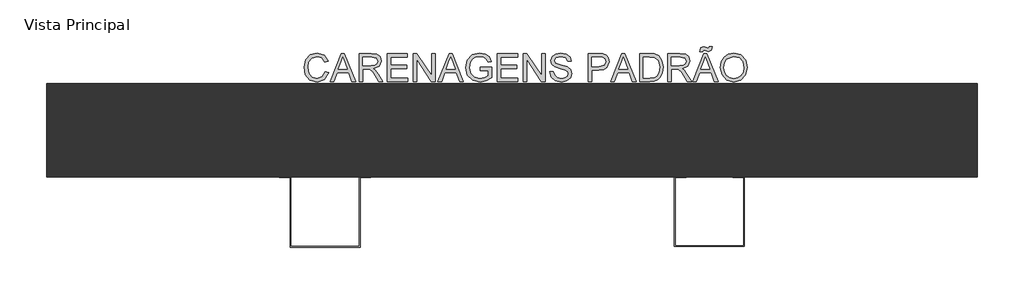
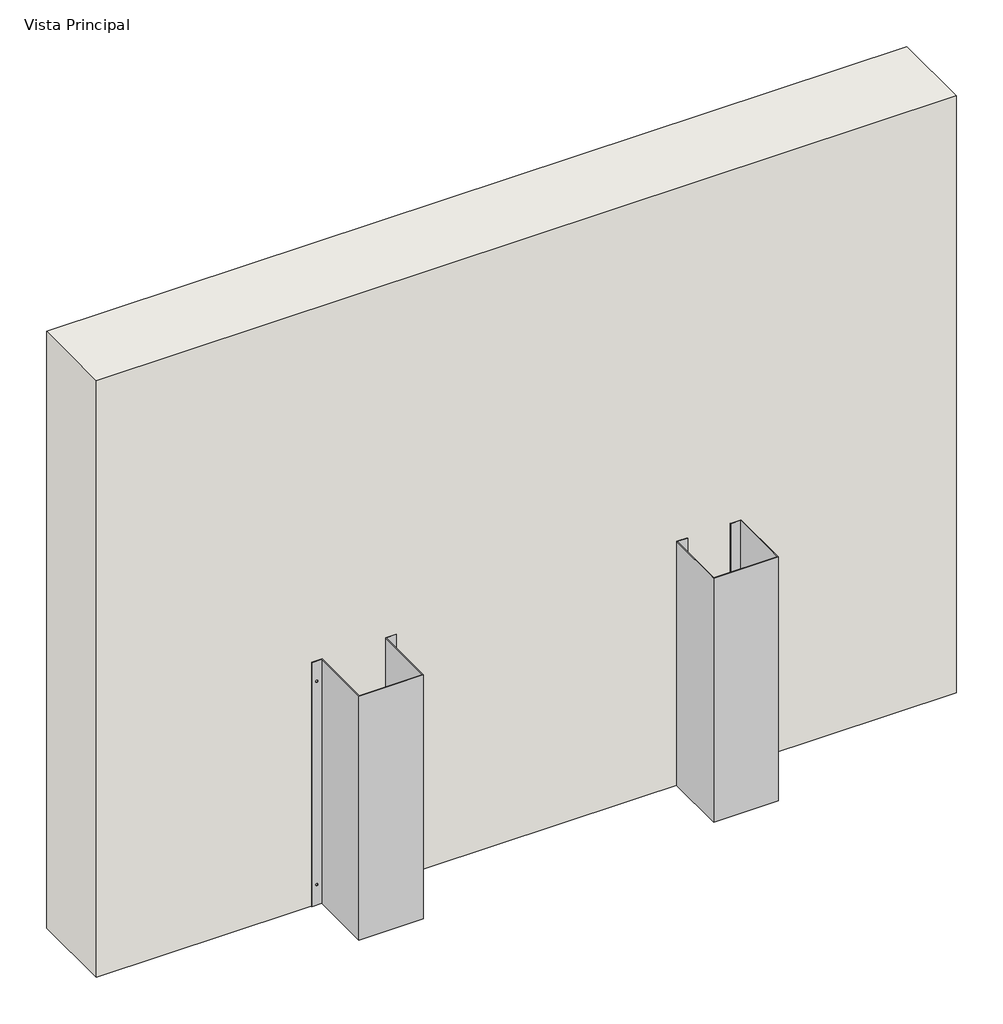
# One storey: 2 flow terminals, 1 proxy, 1 wall.
"""IFC4 building model written with IfcOpenShell, lengths in millimetres."""

from ifc_helpers import new_model, si_unit, origin, origin_with_axes, place, context, project, spatial, polyline, outline, extrude, transform, mapped, element, save
from components import flow_terminal_2c46cccc, flow_terminal_0b78146e

model = new_model("IFC4")

# Units and contexts
model_context = context("Model", 3, world=origin())
ifc_project = project(units=[si_unit("LENGTHUNIT", "METRE", prefix="MILLI")], contexts=[model_context])

# Site, building, storey
site = spatial("IfcSite", under=ifc_project)
building = spatial("IfcBuilding", under=site)
storey = spatial("IfcBuildingStorey", under=building, Name="Vista Principal", Elevation=0.0)

# Proxy
placement = place(None, origin())
element("IfcBuildingElementProxy", 1, Name="TITULO", ObjectType="TITULO", at=placement, inside=storey, context=model_context, shape_type="SweptSolid", body=[
    extrude(outline(polyline([(-10621.891717, 5792.179631), (-10614.3574937, 5790.2372141), (-10623.2896686, 5775.0436877), (-10639.0644485, 5769.8124057), (-10654.7435791, 5773.770816), (-10663.940629, 5785.2340189), (-10667.0970565, 5801.3472503), (-10663.5286012, 5817.7253567), (-10653.3824158, 5828.3424311), (-10638.9025804, 5831.9697476), (-10623.812061, 5827.2755733), (-10615.2992716, 5814.0612521), (-10622.8334949, 5812.2659879), (-10629.0139124, 5821.5292566), (-10639.196886, 5824.4355243), (-10650.9838252, 5821.2128781), (-10657.6424893, 5812.5602935), (-10659.5628333, 5801.3619656), (-10657.2893226, 5788.3830888), (-10650.211273, 5780.0910286), (-10639.8149278, 5777.346629), (-10628.2855061, 5781.08431), (-10621.891717, 5792.179631)])), origin_with_axes(), (0.0, 0.0, 1.0), 150.0),
    extrude(outline(polyline([(-10611.0171252, 5770.7541836), (-10586.9576427, 5831.0279697), (-10580.5417807, 5831.0279697), (-10556.4822982, 5770.7541836), (-10564.4432646, 5770.7541836), (-10571.3447308, 5789.5897418), (-10596.1694079, 5789.5897418), (-10603.0561588, 5770.7541836), (-10611.0171252, 5770.7541836)]), holes=[polyline([(-10593.4029353, 5797.123965), (-10574.0964882, 5797.123965), (-10579.5264264, 5811.9422518), (-10583.7497117, 5823.4937464), (-10587.5021081, 5813.2371964), (-10593.4029353, 5797.123965)])]), origin_with_axes(), (0.0, 0.0, 1.0), 150.0),
    extrude(outline(polyline([(-10548.4330402, 5770.7541836), (-10548.4330402, 5831.0279697), (-10522.4605713, 5831.0279697), (-10510.4013995, 5829.4019313), (-10503.8089542, 5823.6482569), (-10501.3441448, 5814.532141), (-10505.4276349, 5803.6722645), (-10518.0459874, 5798.0657429), (-10513.763841, 5794.8430966), (-10507.6569998, 5787.0881442), (-10497.6064637, 5770.7541836), (-10506.3620552, 5770.7541836), (-10514.2052993, 5783.2474562), (-10519.8706821, 5791.5174434), (-10523.8511653, 5795.4243502), (-10527.4343359, 5796.85909), (-10531.804774, 5797.123965), (-10540.8988169, 5797.123965), (-10540.8988169, 5770.7541836), (-10548.4330402, 5770.7541836)]), holes=[polyline([(-10540.8988169, 5804.6581883), (-10524.0351063, 5804.6581883), (-10515.4340252, 5805.7250461), (-10510.5485523, 5809.138991), (-10508.8783681, 5814.2525507), (-10512.0642261, 5820.8891419), (-10522.1368352, 5823.4937464), (-10540.8988169, 5823.4937464), (-10540.8988169, 5804.6581883)])]), origin_with_axes(), (0.0, 0.0, 1.0), 150.0),
    extrude(outline(polyline([(-10488.1592541, 5770.7541836), (-10488.1592541, 5831.0279697), (-10444.8374703, 5831.0279697), (-10444.8374703, 5823.4937464), (-10480.6250308, 5823.4937464), (-10480.6250308, 5805.5999662), (-10446.7210262, 5805.5999662), (-10446.7210262, 5798.0657429), (-10480.6250308, 5798.0657429), (-10480.6250308, 5778.2884069), (-10443.8956924, 5778.2884069), (-10443.8956924, 5770.7541836), (-10488.1592541, 5770.7541836)])), origin_with_axes(), (0.0, 0.0, 1.0), 150.0),
    extrude(outline(polyline([(-10432.5943575, 5770.7541836), (-10432.5943575, 5831.0279697), (-10424.5303842, 5831.0279697), (-10393.0396854, 5783.2768867), (-10393.0396854, 5831.0279697), (-10385.5054622, 5831.0279697), (-10385.5054622, 5770.7541836), (-10393.5694355, 5770.7541836), (-10425.0601343, 5818.5199819), (-10425.0601343, 5770.7541836), (-10432.5943575, 5770.7541836)])), origin_with_axes(), (0.0, 0.0, 1.0), 150.0),
    extrude(outline(polyline([(-10379.3397599, 5770.7541836), (-10355.2802774, 5831.0279697), (-10348.8644154, 5831.0279697), (-10324.8049329, 5770.7541836), (-10332.7658993, 5770.7541836), (-10339.6673656, 5789.5897418), (-10364.4920426, 5789.5897418), (-10371.3787935, 5770.7541836), (-10379.3397599, 5770.7541836)]), holes=[polyline([(-10361.72557, 5797.123965), (-10342.4191229, 5797.123965), (-10347.8490611, 5811.9422518), (-10352.0723464, 5823.4937464), (-10355.8247428, 5813.2371964), (-10361.72557, 5797.123965)])]), origin_with_axes(), (0.0, 0.0, 1.0), 150.0),
    extrude(outline(polyline([(-10288.5023377, 5794.2986313), (-10288.5023377, 5801.8328545), (-10264.0161121, 5801.8328545), (-10264.0161121, 5779.3037612), (-10276.1047144, 5772.196281), (-10288.8849349, 5769.8124057), (-10304.9760934, 5773.6015902), (-10315.894831, 5784.5718313), (-10319.5810086, 5800.596771), (-10315.9095463, 5816.9822351), (-10305.351333, 5828.2762124), (-10289.4882614, 5831.9697476), (-10277.7013223, 5829.8286744), (-10269.4386927, 5823.8689861), (-10264.8843136, 5813.899384), (-10271.8299256, 5811.9422518), (-10275.2659435, 5818.9099368), (-10281.1373401, 5822.9272082), (-10289.6059837, 5824.4355243), (-10299.2518496, 5822.8094859), (-10305.8148644, 5818.5420548), (-10309.6923406, 5812.7368769), (-10312.0467854, 5800.9057919), (-10309.214094, 5787.7724047), (-10300.9735373, 5779.9144453), (-10289.4882614, 5777.346629), (-10279.1802079, 5779.2816882), (-10271.5503353, 5783.4093242), (-10271.5503353, 5794.2986313), (-10288.5023377, 5794.2986313)])), origin_with_axes(), (0.0, 0.0, 1.0), 150.0),
    extrude(outline(polyline([(-10251.7729993, 5770.7541836), (-10251.7729993, 5831.0279697), (-10208.4512155, 5831.0279697), (-10208.4512155, 5823.4937464), (-10244.238776, 5823.4937464), (-10244.238776, 5805.5999662), (-10210.3347713, 5805.5999662), (-10210.3347713, 5798.0657429), (-10244.238776, 5798.0657429), (-10244.238776, 5778.2884069), (-10207.5094376, 5778.2884069), (-10207.5094376, 5770.7541836), (-10251.7729993, 5770.7541836)])), origin_with_axes(), (0.0, 0.0, 1.0), 150.0),
    extrude(outline(polyline([(-10196.2081027, 5770.7541836), (-10196.2081027, 5831.0279697), (-10188.1441294, 5831.0279697), (-10156.6534306, 5783.2768867), (-10156.6534306, 5831.0279697), (-10149.1192073, 5831.0279697), (-10149.1192073, 5770.7541836), (-10157.1831807, 5770.7541836), (-10188.6738795, 5818.5199819), (-10188.6738795, 5770.7541836), (-10196.2081027, 5770.7541836)])), origin_with_axes(), (0.0, 0.0, 1.0), 150.0),
    extrude(outline(polyline([(-10138.7596503, 5791.4732976), (-10131.2254271, 5791.4732976), (-10128.7974059, 5783.9317167), (-10122.8671482, 5779.163966), (-10113.8319664, 5777.346629), (-10105.9592917, 5778.7225076), (-10100.8751625, 5782.5043345), (-10099.2049782, 5787.5590331), (-10100.455777, 5792.260565), (-10105.5766944, 5795.6818676), (-10116.5469355, 5798.5587048), (-10128.3559475, 5802.2743129), (-10134.7644519, 5807.8808346), (-10136.8760945, 5815.370912), (-10134.2641324, 5823.8984166), (-10126.6342598, 5829.9169661), (-10115.4653624, 5831.9697476), (-10103.5459858, 5829.8213167), (-10095.5997347, 5823.5084617), (-10092.6125329, 5814.0759673), (-10100.1467561, 5814.0759673), (-10104.4141873, 5821.8162045), (-10115.1710568, 5824.4355243), (-10125.9573569, 5821.8456351), (-10129.3418713, 5815.5916412), (-10126.9432807, 5810.3677168), (-10114.6413067, 5806.1591468), (-10101.3092632, 5802.3773199), (-10094.0178421, 5796.2704788), (-10091.670755, 5787.7503318), (-10094.3710088, 5778.7372229), (-10102.1406765, 5772.1594928), (-10113.5376608, 5769.8124057), (-10126.9947841, 5772.3434338), (-10135.5075735, 5779.9659488), (-10138.7596503, 5791.4732976)])), origin_with_axes(), (0.0, 0.0, 1.0), 150.0),
    extrude(outline(polyline([(-10056.8249724, 5770.7541836), (-10056.8249724, 5831.0279697), (-10034.4871776, 5831.0279697), (-10025.4814264, 5830.4540738), (-10018.1605747, 5827.6360977), (-10013.414897, 5821.8088469), (-10011.6196328, 5813.5903631), (-10016.4683175, 5800.5673405), (-10023.2686162, 5796.572142), (-10033.9721428, 5795.2404092), (-10049.2907491, 5795.2404092), (-10049.2907491, 5770.7541836), (-10056.8249724, 5770.7541836)]), holes=[polyline([(-10049.2907491, 5802.7746325), (-10033.5306844, 5802.7746325), (-10022.4353635, 5805.5411051), (-10019.1538561, 5813.3254881), (-10021.0889154, 5819.5647667), (-10026.1730445, 5822.9787116), (-10033.7072678, 5823.4937464), (-10049.2907491, 5823.4937464), (-10049.2907491, 5802.7746325)])]), origin_with_axes(), (0.0, 0.0, 1.0), 150.0),
    extrude(outline(polyline([(-10008.2792643, 5770.7541836), (-9984.2197818, 5831.0279697), (-9977.8039198, 5831.0279697), (-9953.7444373, 5770.7541836), (-9961.7054037, 5770.7541836), (-9968.6068699, 5789.5897418), (-9993.431547, 5789.5897418), (-10000.3182979, 5770.7541836), (-10008.2792643, 5770.7541836)]), holes=[polyline([(-9990.6650744, 5797.123965), (-9971.3586273, 5797.123965), (-9976.7885655, 5811.9422518), (-9981.0118508, 5823.4937464), (-9984.7642472, 5813.2371964), (-9990.6650744, 5797.123965)])]), origin_with_axes(), (0.0, 0.0, 1.0), 150.0),
    extrude(outline(polyline([(-9945.6951793, 5770.7541836), (-9945.6951793, 5831.0279697), (-9924.9024889, 5831.0279697), (-9914.1456194, 5830.1597682), (-9905.2870209, 5825.8481912), (-9898.1501102, 5815.5474953), (-9895.7809502, 5801.2148128), (-9897.3849157, 5789.052634), (-9901.505194, 5780.2749696), (-9907.0087087, 5774.8082432), (-9914.2118381, 5771.7842532), (-9923.9018499, 5770.7541836), (-9945.6951793, 5770.7541836)]), holes=[polyline([(-9938.160956, 5778.2884069), (-9924.8289125, 5778.2884069), (-9915.1315431, 5779.3773376), (-9909.5397368, 5782.452831), (-9904.9559271, 5789.9355508), (-9903.3151734, 5801.332535), (-9906.5304621, 5815.6063564), (-9914.3516333, 5822.2870935), (-9925.0349264, 5823.4937464), (-9938.160956, 5823.4937464), (-9938.160956, 5778.2884069)])]), origin_with_axes(), (0.0, 0.0, 1.0), 150.0),
    extrude(outline(polyline([(-9885.4213932, 5770.7541836), (-9885.4213932, 5831.0279697), (-9859.4489243, 5831.0279697), (-9847.3897525, 5829.4019313), (-9840.7973072, 5823.6482569), (-9838.3324978, 5814.532141), (-9842.415988, 5803.6722645), (-9855.0343404, 5798.0657429), (-9850.752194, 5794.8430966), (-9844.6453528, 5787.0881442), (-9834.5948167, 5770.7541836), (-9843.3504082, 5770.7541836), (-9851.1936524, 5783.2474562), (-9856.8590351, 5791.5174434), (-9860.8395183, 5795.4243502), (-9864.4226889, 5796.85909), (-9868.793127, 5797.123965), (-9877.8871699, 5797.123965), (-9877.8871699, 5770.7541836), (-9885.4213932, 5770.7541836)]), holes=[polyline([(-9877.8871699, 5804.6581883), (-9861.0234593, 5804.6581883), (-9852.4223782, 5805.7250461), (-9847.5369053, 5809.138991), (-9845.8667211, 5814.2525507), (-9849.0525791, 5820.8891419), (-9859.1251882, 5823.4937464), (-9877.8871699, 5823.4937464), (-9877.8871699, 5804.6581883)])]), origin_with_axes(), (0.0, 0.0, 1.0), 150.0),
    extrude(outline(polyline([(-9832.1667956, 5770.7541836), (-9808.1073131, 5831.0279697), (-9801.6914511, 5831.0279697), (-9777.6319686, 5770.7541836), (-9785.592935, 5770.7541836), (-9792.4944012, 5789.5897418), (-9817.3190782, 5789.5897418), (-9824.2058292, 5770.7541836), (-9832.1667956, 5770.7541836)]), holes=[polyline([(-9814.5526056, 5797.123965), (-9795.2461585, 5797.123965), (-9800.6760968, 5811.9422518), (-9804.8993821, 5823.4937464), (-9808.6517784, 5813.2371964), (-9814.5526056, 5797.123965)])]), origin_with_axes(), (0.0, 0.0, 1.0), 150.0),
    extrude(outline(polyline([(-9816.6716059, 5834.7950813), (-9814.3318764, 5843.0209227), (-9808.3427576, 5846.0964162), (-9802.3094928, 5843.668395), (-9799.2634299, 5842.3293046), (-9797.6668221, 5843.0871415), (-9796.8942699, 5846.0964162), (-9790.3018245, 5846.0964162), (-9792.6930575, 5837.620415), (-9798.4688048, 5834.7950813), (-9804.4284931, 5837.090665), (-9807.6069936, 5838.5621929), (-9809.4022577, 5837.6056998), (-9810.0791606, 5834.7950813), (-9816.6716059, 5834.7950813)])), origin_with_axes(), (0.0, 0.0, 1.0), 150.0),
    extrude(outline(polyline([(-9772.4080443, 5800.0964515), (-9770.3994086, 5813.4248162), (-9764.3735015, 5823.5084617), (-9755.1727728, 5829.8544261), (-9743.6396722, 5831.9697476), (-9728.6448021, 5827.996622), (-9718.4618285, 5816.9160164), (-9714.9595919, 5800.7880697), (-9718.6457695, 5784.4393938), (-9729.0936182, 5773.5206562), (-9743.6838181, 5769.8124057), (-9758.8405563, 5773.9106111), (-9768.9646688, 5785.0942238), (-9772.4080443, 5800.0964515)]), holes=[polyline([(-9764.873821, 5800.0228751), (-9763.3673442, 5790.5940596), (-9758.8479139, 5783.4093242), (-9752.0549729, 5778.8623028), (-9743.7279639, 5777.346629), (-9735.2795539, 5778.8770181), (-9728.4755764, 5783.4681854), (-9723.9892555, 5790.8736499), (-9722.4938152, 5800.8469308), (-9725.0542739, 5813.2813422), (-9732.5369936, 5821.5145413), (-9743.5955264, 5824.4355243), (-9758.5903965, 5818.8069298), (-9763.3029649, 5811.2966189), (-9764.873821, 5800.0228751)])]), origin_with_axes(), (0.0, 0.0, 1.0), 150.0),
])

# Flow terminals
flow_terminal_shape = flow_terminal_2c46cccc(model_context)
element("IfcFlowTerminal", 2, ObjectType="Carenagem - Aba Externa : Carenagem 600x150x150mm", at=placement, inside=storey, context=model_context, shape_type="MappedRepresentation", body=[
    mapped(flow_terminal_shape, transform((-10496.784087, 5665.5022787, 0.0), x_axis=(-1.0, 0.0, 0.0), y_axis=(0.0, -1.0, 0.0), z_axis=(0.0, 0.0, 1.0))),
])
flow_terminal_2_shape = flow_terminal_0b78146e(model_context)
element("IfcFlowTerminal", 3, ObjectType="Carenagem - Aba Interna : Carenagem 600x150x150mm", at=placement, inside=storey, context=model_context, shape_type="MappedRepresentation", body=[
    mapped(flow_terminal_2_shape, transform((-9671.284087, 5665.5022787, 0.0), x_axis=(-1.0, 0.0, 0.0), y_axis=(0.0, -1.0, 0.0), z_axis=(0.0, 0.0, 1.0))),
])

# Wall
element("IfcWall", 4, ObjectType="Genérico - 200 mm", at=placement, inside=storey, context=model_context, shape_type="SweptSolid", body=[
    extrude(outline(polyline([(-9220.284087, 5565.5022787), (-11220.284087, 5565.5022787), (-11220.284087, 5765.5022787), (-9220.284087, 5765.5022787), (-9220.284087, 5565.5022787)])), origin_with_axes(), (0.0, 0.0, 1.0), 1466.8502435),
])

save(model, "model.ifc")
